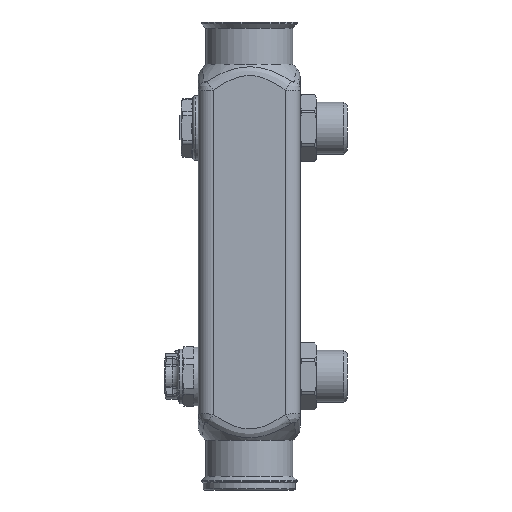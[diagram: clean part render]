
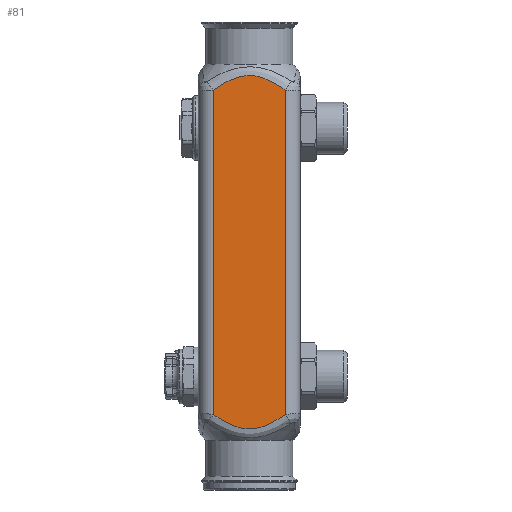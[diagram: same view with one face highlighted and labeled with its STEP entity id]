
A CAD part, left-side view. The second image highlights one B-rep face of the part: STEP entity #81.
In plain terms, the highlighted planar face has unit normal (-1, 0, 0).
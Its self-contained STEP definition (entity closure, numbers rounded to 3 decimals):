
#81=ADVANCED_FACE('',(#1456),#1458,.T.);
#1456=FACE_BOUND('',#1457,.T.);
#1457=EDGE_LOOP('',(#9364,#9365,#9366,#9367));
#1458=PLANE('',#1459);
#1459=AXIS2_PLACEMENT_3D('',#1460,#1461,#1462);
#1460=CARTESIAN_POINT('',(-20.,14.5,-75.75));
#1461=DIRECTION('',(-1.,0.,0.));
#1462=DIRECTION('',(0.,-1.,0.));
#9364=ORIENTED_EDGE('',*,*,#13834,.F.);
#9365=ORIENTED_EDGE('',*,*,#13835,.F.);
#9366=ORIENTED_EDGE('',*,*,#13592,.F.);
#9367=ORIENTED_EDGE('',*,*,#13833,.T.);
#13592=EDGE_CURVE('',#15528,#15531,#15532,.T.);
#13833=EDGE_CURVE('',#15528,#16004,#16006,.T.);
#13834=EDGE_CURVE('',#16007,#16004,#16008,.T.);
#13835=EDGE_CURVE('',#15531,#16007,#16009,.T.);
#15528=VERTEX_POINT('',#18607);
#15531=VERTEX_POINT('',#18644);
#15532=B_SPLINE_CURVE_WITH_KNOTS('',3,
(#18645,#18646,#18647,#18648,#18649,#18650,#18651,#18652,#18653,#18654,#18655,#18656,
#18657,#18658,#18659,#18660,#18661,#18662,#18663,#18664,#18665,#18666,#18667,#18668),
.UNSPECIFIED.,.F.,.F.,
(4,1,1,1,1,1,1,1,1,1,1,1,1,1,1,1,1,1,1,1,1,4),
(0.,0.067,0.126,0.177,0.229,0.282,
0.333,0.38,0.422,0.461,0.5,
0.538,0.579,0.624,0.674,0.728,
0.78,0.832,0.883,0.936,0.975,
1.),
.UNSPECIFIED.);
#16004=VERTEX_POINT('',#19797);
#16006=LINE('',#19830,#19831);
#16007=VERTEX_POINT('',#19833);
#16008=B_SPLINE_CURVE_WITH_KNOTS('',3,
(#19834,#19835,#19836,#19837,#19838,#19839,#19840,#19841,#19842,#19843,#19844,#19845,
#19846,#19847,#19848,#19849,#19850,#19851,#19852,#19853,#19854,#19855,#19856,#19857),
.UNSPECIFIED.,.F.,.F.,
(4,1,1,1,1,1,1,1,1,1,1,1,1,1,1,1,1,1,1,1,1,4),
(0.,0.067,0.126,0.177,0.229,0.282,
0.333,0.38,0.422,0.461,0.5,
0.538,0.579,0.624,0.674,0.728,
0.78,0.832,0.883,0.936,0.975,
1.),
.UNSPECIFIED.);
#16009=LINE('',#19858,#19859);
#18607=CARTESIAN_POINT('',(-20.,-14.5,-65.316));
#18644=CARTESIAN_POINT('',(-20.,14.5,-65.316));
#18645=CARTESIAN_POINT('',(-20.,-14.5,-65.316));
#18646=CARTESIAN_POINT('',(-20.,-13.894,-65.737));
#18647=CARTESIAN_POINT('',(-20.,-12.751,-66.507));
#18648=CARTESIAN_POINT('',(-20.,-11.115,-67.523));
#18649=CARTESIAN_POINT('',(-20.,-9.596,-68.386));
#18650=CARTESIAN_POINT('',(-20.,-8.102,-69.148));
#18651=CARTESIAN_POINT('',(-20.,-6.589,-69.815));
#18652=CARTESIAN_POINT('',(-20.,-5.102,-70.355));
#18653=CARTESIAN_POINT('',(-20.,-3.708,-70.746));
#18654=CARTESIAN_POINT('',(-20.,-2.415,-71.002));
#18655=CARTESIAN_POINT('',(-20.,-1.196,-71.147));
#18656=CARTESIAN_POINT('',(-20.,-0.013,-71.194));
#18657=CARTESIAN_POINT('',(-20.,1.184,-71.148));
#18658=CARTESIAN_POINT('',(-20.,2.447,-70.999));
#18659=CARTESIAN_POINT('',(-20.,3.824,-70.72));
#18660=CARTESIAN_POINT('',(-20.,5.311,-70.289));
#18661=CARTESIAN_POINT('',(-20.,6.841,-69.712));
#18662=CARTESIAN_POINT('',(-20.,8.369,-69.019));
#18663=CARTESIAN_POINT('',(-20.,9.844,-68.251));
#18664=CARTESIAN_POINT('',(-20.,11.312,-67.404));
#18665=CARTESIAN_POINT('',(-20.,12.628,-66.579));
#18666=CARTESIAN_POINT('',(-20.,13.697,-65.87));
#18667=CARTESIAN_POINT('',(-20.,14.272,-65.474));
#18668=CARTESIAN_POINT('',(-20.,14.5,-65.316));
#19797=CARTESIAN_POINT('',(-20.,-14.5,65.316));
#19830=CARTESIAN_POINT('',(-20.,-14.5,-65.316));
#19831=VECTOR('',#19832,1.);
#19832=DIRECTION('',(0.,0.,1.));
#19833=CARTESIAN_POINT('',(-20.,14.5,65.316));
#19834=CARTESIAN_POINT('',(-20.,14.5,65.316));
#19835=CARTESIAN_POINT('',(-20.,13.894,65.737));
#19836=CARTESIAN_POINT('',(-20.,12.751,66.507));
#19837=CARTESIAN_POINT('',(-20.,11.115,67.523));
#19838=CARTESIAN_POINT('',(-20.,9.596,68.386));
#19839=CARTESIAN_POINT('',(-20.,8.102,69.148));
#19840=CARTESIAN_POINT('',(-20.,6.589,69.815));
#19841=CARTESIAN_POINT('',(-20.,5.102,70.355));
#19842=CARTESIAN_POINT('',(-20.,3.708,70.746));
#19843=CARTESIAN_POINT('',(-20.,2.415,71.002));
#19844=CARTESIAN_POINT('',(-20.,1.196,71.147));
#19845=CARTESIAN_POINT('',(-20.,0.013,71.194));
#19846=CARTESIAN_POINT('',(-20.,-1.184,71.148));
#19847=CARTESIAN_POINT('',(-20.,-2.447,70.999));
#19848=CARTESIAN_POINT('',(-20.,-3.824,70.72));
#19849=CARTESIAN_POINT('',(-20.,-5.311,70.289));
#19850=CARTESIAN_POINT('',(-20.,-6.841,69.712));
#19851=CARTESIAN_POINT('',(-20.,-8.369,69.019));
#19852=CARTESIAN_POINT('',(-20.,-9.844,68.251));
#19853=CARTESIAN_POINT('',(-20.,-11.312,67.404));
#19854=CARTESIAN_POINT('',(-20.,-12.628,66.579));
#19855=CARTESIAN_POINT('',(-20.,-13.697,65.87));
#19856=CARTESIAN_POINT('',(-20.,-14.272,65.474));
#19857=CARTESIAN_POINT('',(-20.,-14.5,65.316));
#19858=CARTESIAN_POINT('',(-20.,14.5,-65.316));
#19859=VECTOR('',#19860,1.);
#19860=DIRECTION('',(0.,0.,1.));
